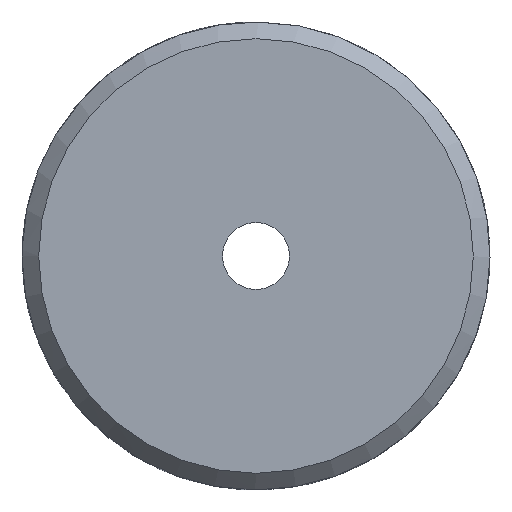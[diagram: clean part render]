
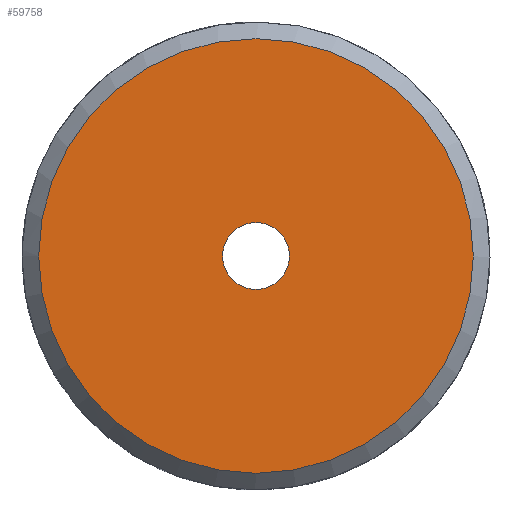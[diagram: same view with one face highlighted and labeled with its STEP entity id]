
A CAD part, left-side view. The second image highlights one B-rep face of the part: STEP entity #59758.
In plain terms, the highlighted planar face has unit normal (-1, 0, 0).
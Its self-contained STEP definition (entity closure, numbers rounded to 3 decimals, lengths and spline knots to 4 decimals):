
#17197=PLANE('',#58992);
#22177=ORIENTED_EDGE('',*,*,#25599,.T.);
#22178=ORIENTED_EDGE('',*,*,#25598,.F.);
#22736=CIRCLE('',#58991,1.);
#22737=CIRCLE('',#58993,6.5);
#23881=VERTEX_POINT('',#57877);
#23882=VERTEX_POINT('',#57880);
#25598=EDGE_CURVE('',#23881,#23881,#22736,.T.);
#25599=EDGE_CURVE('',#23882,#23882,#22737,.T.);
#26178=EDGE_LOOP('',(#22177));
#26179=EDGE_LOOP('',(#22178));
#26760=FACE_BOUND('',#26178,.T.);
#26761=FACE_BOUND('',#26179,.T.);
#28976=DIRECTION('',(-1.,0.,0.));
#28977=DIRECTION('',(0.,0.,1.));
#28978=DIRECTION('',(-1.,0.,0.));
#28979=DIRECTION('',(0.,1.,0.));
#28980=DIRECTION('',(-1.,0.,0.));
#28981=DIRECTION('',(0.,0.,-6.5));
#57877=CARTESIAN_POINT('',(29.5184,39.9427,1.));
#57878=CARTESIAN_POINT('',(29.5184,39.9427,0.));
#57879=CARTESIAN_POINT('',(29.5184,39.9427,-6.5));
#57880=CARTESIAN_POINT('',(29.5184,39.9427,-6.5));
#57881=CARTESIAN_POINT('',(29.5184,39.9427,0.));
#58991=AXIS2_PLACEMENT_3D('',#57878,#28976,#28977);
#58992=AXIS2_PLACEMENT_3D('',#57879,#28978,#28979);
#58993=AXIS2_PLACEMENT_3D('',#57881,#28980,#28981);
#59758=ADVANCED_FACE('',(#26760,#26761),#17197,.T.);
